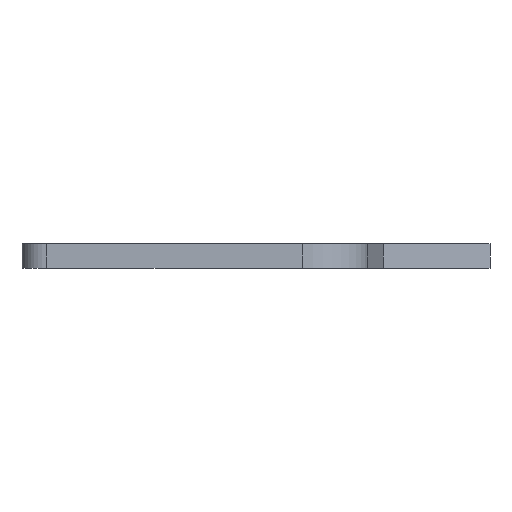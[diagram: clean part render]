
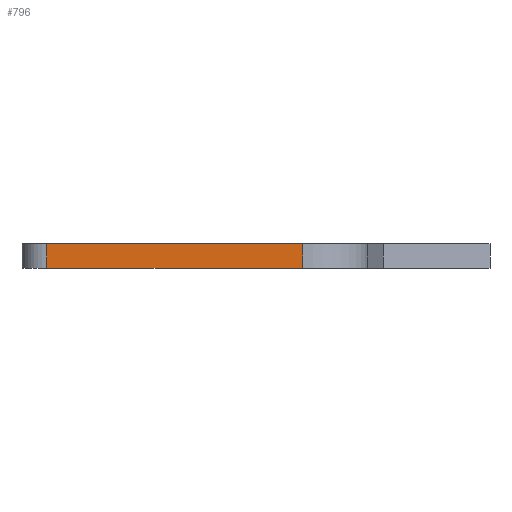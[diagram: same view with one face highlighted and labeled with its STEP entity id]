
A CAD part, left-side view. The second image highlights one B-rep face of the part: STEP entity #796.
In plain terms, the highlighted planar face has unit normal (-1, 0, 0).
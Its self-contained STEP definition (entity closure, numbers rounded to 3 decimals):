
#43=FACE_OUTER_BOUND('',#84,.T.);
#84=EDGE_LOOP('',(#543,#544,#545,#546));
#142=LINE('',#1174,#245);
#143=LINE('',#1176,#246);
#144=LINE('',#1178,#247);
#145=LINE('',#1179,#248);
#245=VECTOR('',#944,10.);
#246=VECTOR('',#945,23.164);
#247=VECTOR('',#946,1.);
#248=VECTOR('',#947,10.);
#348=VERTEX_POINT('',#1172);
#349=VERTEX_POINT('',#1173);
#350=VERTEX_POINT('',#1175);
#351=VERTEX_POINT('',#1177);
#426=EDGE_CURVE('',#348,#349,#142,.T.);
#427=EDGE_CURVE('',#348,#350,#143,.T.);
#428=EDGE_CURVE('',#351,#350,#144,.T.);
#429=EDGE_CURVE('',#351,#349,#145,.T.);
#543=ORIENTED_EDGE('',*,*,#426,.F.);
#544=ORIENTED_EDGE('',*,*,#427,.T.);
#545=ORIENTED_EDGE('',*,*,#428,.F.);
#546=ORIENTED_EDGE('',*,*,#429,.T.);
#762=PLANE('',#860);
#796=ADVANCED_FACE('',(#43),#762,.T.);
#860=AXIS2_PLACEMENT_3D('',#1171,#942,#943);
#942=DIRECTION('center_axis',(-1.,0.,0.));
#943=DIRECTION('ref_axis',(0.,0.,1.));
#944=DIRECTION('',(0.,0.,1.));
#945=DIRECTION('',(0.,-1.,0.));
#946=DIRECTION('',(0.,0.,-1.));
#947=DIRECTION('',(0.,1.,0.));
#1171=CARTESIAN_POINT('Origin',(-40.,31.,-1.));
#1172=CARTESIAN_POINT('',(-40.,39.,-2.));
#1173=CARTESIAN_POINT('',(-40.,39.,1.));
#1174=CARTESIAN_POINT('',(-40.,39.,-0.25));
#1175=CARTESIAN_POINT('',(-40.,7.836,-2.));
#1176=CARTESIAN_POINT('',(-40.,31.,-2.));
#1177=CARTESIAN_POINT('',(-40.,7.836,1.));
#1178=CARTESIAN_POINT('',(-40.,7.836,2.));
#1179=CARTESIAN_POINT('',(-40.,21.354,1.));
